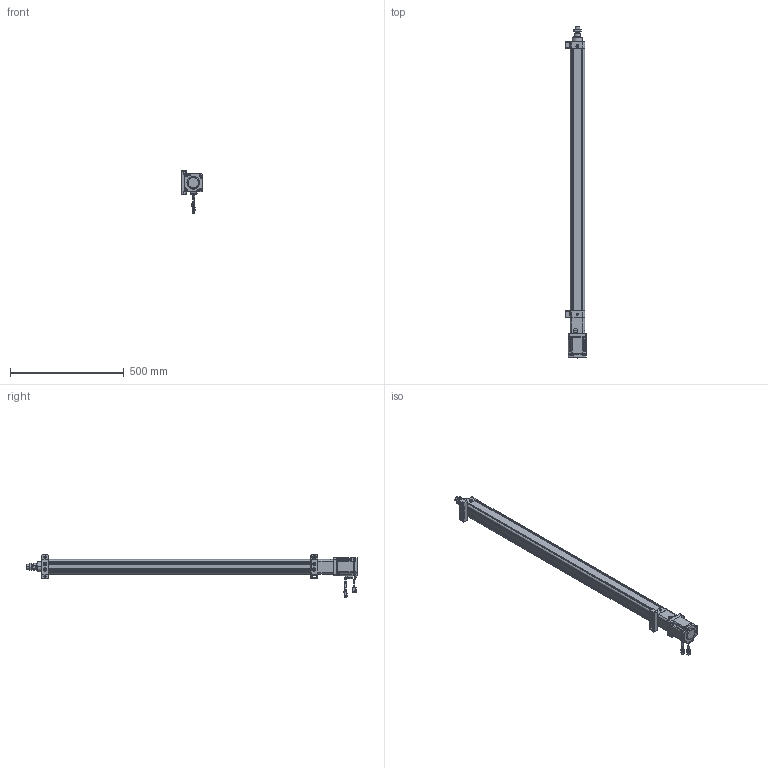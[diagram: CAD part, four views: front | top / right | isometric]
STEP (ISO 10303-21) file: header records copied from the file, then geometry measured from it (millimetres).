
FILE_DESCRIPTION((''),'2;1');
FILE_NAME('HE50-D-100-X1_ASM','2020-05-08T',('ASUS20200'),(''),'CREO PARAMETRIC BY PTC INC, 2014190','CREO PARAMETRIC BY PTC INC, 2014190','');
FILE_SCHEMA(('CONFIG_CONTROL_DESIGN'));
Length unit declared in the file: millimetre
Products named in the file (28): HE50-D-P-001-X1; HE50-D-P-002-X1; HE50-D-P-003-X1; HE50-D-009-X1; HE50-D-010-X1; 6301ZZ; LGLM-M8-22; SKT-16; SLM-01; YZ-M6X1; _MHMF082L1A2; _CABLE_MOTOR_BOTTOM_05; _CABLE_MOTOR_TOP_05; _MOTOR_CONNECTOR_2; _CABLE_BRAKE_BOTTOM_05; _CABLE_BRAKE_TOP_05; _MHMF_CONNECTOR_9_PIN_A6; MHMF082L1A2M2_1_ASM; M6X16; JX6X6X20; JDB303820; HE50-P-015-X1; HE50-P-016-X1; M8X25; HE50-D-P-005-X1; HE50-D-P-004-X1; HE50-D-P-008-X1; HE50-D-100-X1_ASM
Assembly tree (40 placements, depth 3):
  HE50-D-100-X1_ASM
    HE50-D-P-001-X1
    HE50-D-P-002-X1
    HE50-D-P-003-X1
    HE50-D-009-X1
    HE50-D-010-X1
    6301ZZ
    LGLM-M8-22  x8
    SKT-16
    SLM-01
    YZ-M6X1
    MHMF082L1A2M2_1_ASM
      _MHMF082L1A2
      _CABLE_MOTOR_BOTTOM_05
      _CABLE_MOTOR_TOP_05
      _MOTOR_CONNECTOR_2
      _CABLE_BRAKE_BOTTOM_05
      _CABLE_BRAKE_TOP_05
      _MHMF_CONNECTOR_9_PIN_A6
    M6X16  x4
    JX6X6X20
    JDB303820
    HE50-P-015-X1
    HE50-P-016-X1
    M8X25  x4
    HE50-D-P-005-X1
    HE50-D-P-004-X1
    HE50-D-P-008-X1
Bounding box: 92 x 1458.4 x 186.15 mm (x, y, z)
Volume: 3142159 mm3; surface area: 935086.5 mm2
Topology: 39 solids, 71 shells, 2622 faces, 6373 edges, 3971 vertices
Faces by surface type: plane 1133, cylinder 757, cone 567, torus 118, sphere 44, bspline 3
Entity records: 67704 total; most frequent: CARTESIAN_POINT 12616, DIRECTION 12123, ORIENTED_EDGE 10796, EDGE_CURVE 5457, AXIS2_PLACEMENT_3D 4519, VERTEX_POINT 3430, VECTOR 3085, LINE 3085
